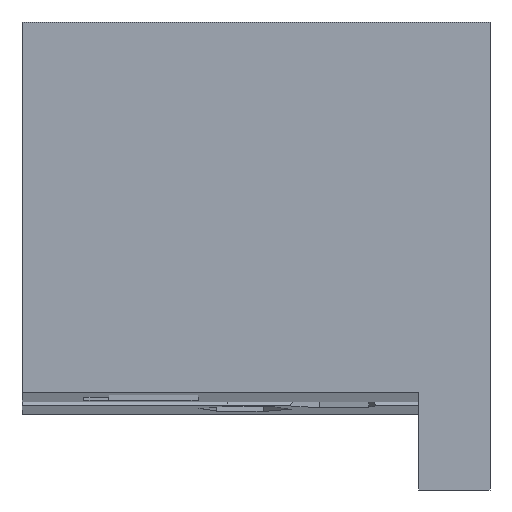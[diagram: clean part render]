
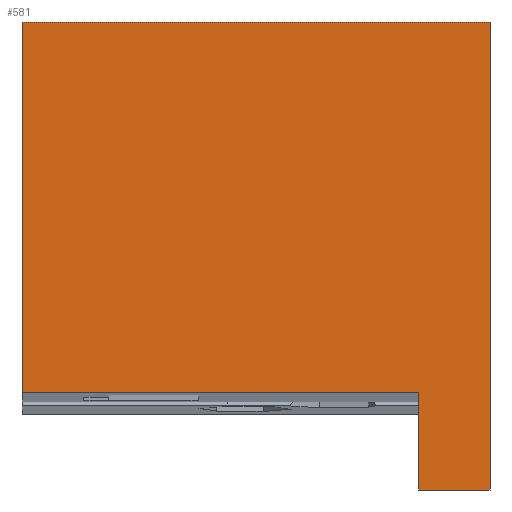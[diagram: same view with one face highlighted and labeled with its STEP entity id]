
A CAD part, front view. The second image highlights one B-rep face of the part: STEP entity #581.
In plain terms, the highlighted planar face has unit normal (0, -1, 0).
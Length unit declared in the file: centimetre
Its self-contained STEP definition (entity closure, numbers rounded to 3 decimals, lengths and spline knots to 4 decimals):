
#13 = ORIENTED_EDGE ( 'NONE', *, *, #288, .T. ) ;
#20 = LINE ( 'NONE', #149, #1191 ) ;
#55 = EDGE_CURVE ( 'NONE', #1750, #69, #20, .T. ) ;
#69 = VERTEX_POINT ( 'NONE', #566 ) ;
#78 = CARTESIAN_POINT ( 'NONE',  ( 0., 0., 1000. ) ) ;
#79 = CARTESIAN_POINT ( 'NONE',  ( 847.5697, 0., 209.3606 ) ) ;
#90 = LINE ( 'NONE', #79, #375 ) ;
#99 = VERTEX_POINT ( 'NONE', #1773 ) ;
#113 = AXIS2_PLACEMENT_3D ( 'NONE', #78, #622, #1744 ) ;
#149 = CARTESIAN_POINT ( 'NONE',  ( 847.5697, 0., 209.3606 ) ) ;
#217 = FACE_OUTER_BOUND ( 'NONE', #283, .T. ) ;
#283 = EDGE_LOOP ( 'NONE', ( #466, #840, #395, #13, #324, #515 ) ) ;
#288 = EDGE_CURVE ( 'NONE', #1750, #1061, #667, .T. ) ;
#324 = ORIENTED_EDGE ( 'NONE', *, *, #1626, .F. ) ;
#375 = VECTOR ( 'NONE', #626, 100. ) ;
#381 = DIRECTION ( 'NONE',  ( 1., 0., 0. ) ) ;
#394 = LINE ( 'NONE', #1585, #1195 ) ;
#395 = ORIENTED_EDGE ( 'NONE', *, *, #55, .F. ) ;
#466 = ORIENTED_EDGE ( 'NONE', *, *, #1219, .T. ) ;
#515 = ORIENTED_EDGE ( 'NONE', *, *, #1085, .F. ) ;
#566 = CARTESIAN_POINT ( 'NONE',  ( 847.5697, 0., 209.3606 ) ) ;
#577 = LINE ( 'NONE', #1649, #1627 ) ;
#581 = ADVANCED_FACE ( 'NONE', ( #217 ), #760, .F. ) ;
#622 = DIRECTION ( 'NONE',  ( 0., 1., 0. ) ) ;
#626 = DIRECTION ( 'NONE',  ( -1., 0., 0. ) ) ;
#656 = CARTESIAN_POINT ( 'NONE',  ( 1000., 0., 0. ) ) ;
#667 = LINE ( 'NONE', #1211, #1386 ) ;
#693 = DIRECTION ( 'NONE',  ( 0., 0., -1. ) ) ;
#696 = CARTESIAN_POINT ( 'NONE',  ( 1000., 0., 1000. ) ) ;
#760 = PLANE ( 'NONE',  #113 ) ;
#771 = CARTESIAN_POINT ( 'NONE',  ( 0., 0., 209.3606 ) ) ;
#800 = VECTOR ( 'NONE', #1240, 100. ) ;
#840 = ORIENTED_EDGE ( 'NONE', *, *, #1451, .F. ) ;
#855 = DIRECTION ( 'NONE',  ( 0., 0., 1. ) ) ;
#977 = CARTESIAN_POINT ( 'NONE',  ( 1000., 0., 1000. ) ) ;
#1061 = VERTEX_POINT ( 'NONE', #656 ) ;
#1085 = EDGE_CURVE ( 'NONE', #99, #1160, #394, .T. ) ;
#1160 = VERTEX_POINT ( 'NONE', #977 ) ;
#1191 = VECTOR ( 'NONE', #855, 100. ) ;
#1195 = VECTOR ( 'NONE', #381, 100. ) ;
#1211 = CARTESIAN_POINT ( 'NONE',  ( 0., 0., 0. ) ) ;
#1219 = EDGE_CURVE ( 'NONE', #99, #1464, #577, .T. ) ;
#1240 = DIRECTION ( 'NONE',  ( 0., 0., -1. ) ) ;
#1269 = CARTESIAN_POINT ( 'NONE',  ( 847.5697, 0., 0. ) ) ;
#1376 = LINE ( 'NONE', #696, #800 ) ;
#1386 = VECTOR ( 'NONE', #1623, 100. ) ;
#1451 = EDGE_CURVE ( 'NONE', #69, #1464, #90, .T. ) ;
#1464 = VERTEX_POINT ( 'NONE', #771 ) ;
#1585 = CARTESIAN_POINT ( 'NONE',  ( 0., 0., 1000. ) ) ;
#1623 = DIRECTION ( 'NONE',  ( 1., 0., 0. ) ) ;
#1626 = EDGE_CURVE ( 'NONE', #1160, #1061, #1376, .T. ) ;
#1627 = VECTOR ( 'NONE', #693, 100. ) ;
#1649 = CARTESIAN_POINT ( 'NONE',  ( 0., 0., 1000. ) ) ;
#1744 = DIRECTION ( 'NONE',  ( 0., 0., 1. ) ) ;
#1750 = VERTEX_POINT ( 'NONE', #1269 ) ;
#1773 = CARTESIAN_POINT ( 'NONE',  ( 0., 0., 1000. ) ) ;
